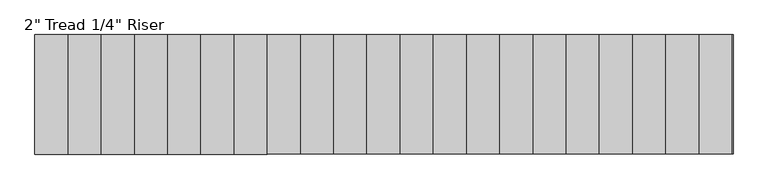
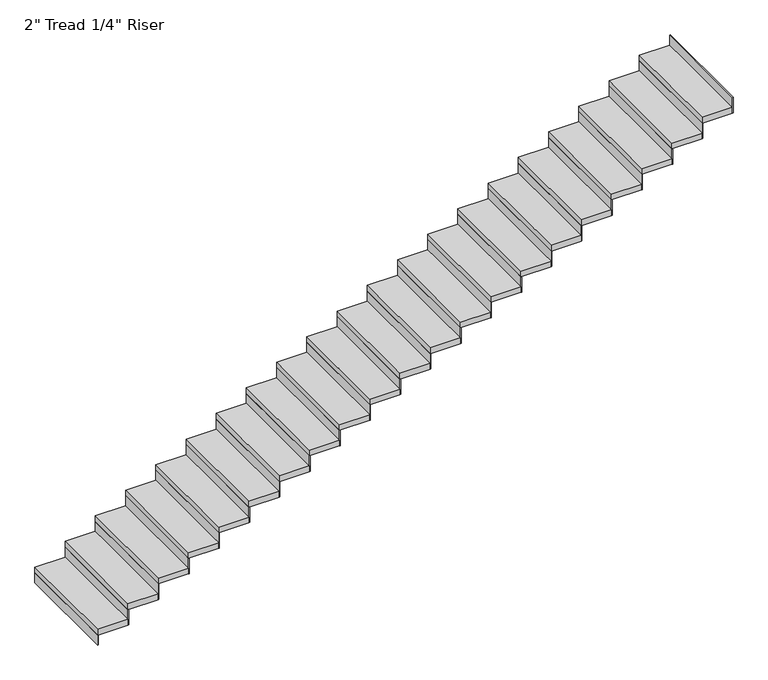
"""IFC4 building model written with IfcOpenShell, lengths in millimetres: stair flight geometry."""

from ifc_helpers import new_model, si_unit, frame, origin, origin_with_axes, place, context, project, spatial, polyline, outline, extrude, source, transform, mapped, element, save


def stair_flight_6cf72abf(model_context):
    return source(origin(), model_context, "Body", "SweptSolid", [
        extrude(outline(polyline([(10185.0667764, -2400.7855758), (10178.7167764, -2400.7855758), (10178.7167764, -1486.3855758), (10185.0667764, -1486.3855758), (10185.0667764, -2400.7855758)])), origin_with_axes(), (0.0, 0.0, 1.0), 87.7454545),
        extrude(outline(polyline([(10432.7167764, -1486.3855758), (10432.7167764, -2400.7855758), (10178.7167764, -2400.7855758), (10178.7167764, -1486.3855758), (10432.7167764, -1486.3855758)])), frame((0.0, 0.0, 87.7454545), z_axis=(0.0, 0.0, 1.0), x_axis=(1.0, 0.0, 0.0)), (0.0, 0.0, 1.0), 50.8),
        extrude(outline(polyline([(10439.0667764, -2400.7855758), (10432.7167764, -2400.7855758), (10432.7167764, -1486.3855758), (10439.0667764, -1486.3855758), (10439.0667764, -2400.7855758)])), frame((0.0, 0.0, 87.7454545), z_axis=(0.0, 0.0, 1.0), x_axis=(1.0, 0.0, 0.0)), (0.0, 0.0, 1.0), 138.5454545),
        extrude(outline(polyline([(10686.7167764, -1486.3855758), (10686.7167764, -2400.7855758), (10432.7167764, -2400.7855758), (10432.7167764, -1486.3855758), (10686.7167764, -1486.3855758)])), frame((0.0, 0.0, 226.2909091), z_axis=(0.0, 0.0, 1.0), x_axis=(1.0, 0.0, 0.0)), (0.0, 0.0, 1.0), 50.8),
        extrude(outline(polyline([(10693.0667764, -2400.7855758), (10686.7167764, -2400.7855758), (10686.7167764, -1486.3855758), (10693.0667764, -1486.3855758), (10693.0667764, -2400.7855758)])), frame((0.0, 0.0, 226.2909091), z_axis=(0.0, 0.0, 1.0), x_axis=(1.0, 0.0, 0.0)), (0.0, 0.0, 1.0), 138.5454545),
        extrude(outline(polyline([(10940.7167764, -1486.3855758), (10940.7167764, -2400.7855758), (10686.7167764, -2400.7855758), (10686.7167764, -1486.3855758), (10940.7167764, -1486.3855758)])), frame((0.0, 0.0, 364.8363636), z_axis=(0.0, 0.0, 1.0), x_axis=(1.0, 0.0, 0.0)), (0.0, 0.0, 1.0), 50.8),
        extrude(outline(polyline([(10947.0667764, -2400.7855758), (10940.7167764, -2400.7855758), (10940.7167764, -1486.3855758), (10947.0667764, -1486.3855758), (10947.0667764, -2400.7855758)])), frame((0.0, 0.0, 364.8363636), z_axis=(0.0, 0.0, 1.0), x_axis=(1.0, 0.0, 0.0)), (0.0, 0.0, 1.0), 138.5454545),
        extrude(outline(polyline([(11194.7167764, -1486.3855758), (11194.7167764, -2400.7855758), (10940.7167764, -2400.7855758), (10940.7167764, -1486.3855758), (11194.7167764, -1486.3855758)])), frame((0.0, 0.0, 503.3818182), z_axis=(0.0, 0.0, 1.0), x_axis=(1.0, 0.0, 0.0)), (0.0, 0.0, 1.0), 50.8),
        extrude(outline(polyline([(11201.0667764, -2400.7855758), (11194.7167764, -2400.7855758), (11194.7167764, -1486.3855758), (11201.0667764, -1486.3855758), (11201.0667764, -2400.7855758)])), frame((0.0, 0.0, 503.3818182), z_axis=(0.0, 0.0, 1.0), x_axis=(1.0, 0.0, 0.0)), (0.0, 0.0, 1.0), 138.5454545),
        extrude(outline(polyline([(11448.7167764, -1486.3855758), (11448.7167764, -2400.7855758), (11194.7167764, -2400.7855758), (11194.7167764, -1486.3855758), (11448.7167764, -1486.3855758)])), frame((0.0, 0.0, 641.9272727), z_axis=(0.0, 0.0, 1.0), x_axis=(1.0, 0.0, 0.0)), (0.0, 0.0, 1.0), 50.8),
        extrude(outline(polyline([(11455.0667764, -2400.7855758), (11448.7167764, -2400.7855758), (11448.7167764, -1486.3855758), (11455.0667764, -1486.3855758), (11455.0667764, -2400.7855758)])), frame((0.0, 0.0, 641.9272727), z_axis=(0.0, 0.0, 1.0), x_axis=(1.0, 0.0, 0.0)), (0.0, 0.0, 1.0), 138.5454545),
        extrude(outline(polyline([(11702.7167764, -1486.3855758), (11702.7167764, -2400.7855758), (11448.7167764, -2400.7855758), (11448.7167764, -1486.3855758), (11702.7167764, -1486.3855758)])), frame((0.0, 0.0, 780.4727273), z_axis=(0.0, 0.0, 1.0), x_axis=(1.0, 0.0, 0.0)), (0.0, 0.0, 1.0), 50.8),
        extrude(outline(polyline([(11709.0667764, -2400.7855758), (11702.7167764, -2400.7855758), (11702.7167764, -1486.3855758), (11709.0667764, -1486.3855758), (11709.0667764, -2400.7855758)])), frame((0.0, 0.0, 780.4727273), z_axis=(0.0, 0.0, 1.0), x_axis=(1.0, 0.0, 0.0)), (0.0, 0.0, 1.0), 138.5454545),
        extrude(outline(polyline([(11956.7167764, -1486.3855758), (11956.7167764, -2400.7855758), (11702.7167764, -2400.7855758), (11702.7167764, -1486.3855758), (11956.7167764, -1486.3855758)])), frame((0.0, 0.0, 919.0181818), z_axis=(0.0, 0.0, 1.0), x_axis=(1.0, 0.0, 0.0)), (0.0, 0.0, 1.0), 50.8),
        extrude(outline(polyline([(11963.0667764, -2400.7855758), (11956.7167764, -2400.7855758), (11956.7167764, -1486.3855758), (11963.0667764, -1486.3855758), (11963.0667764, -2400.7855758)])), frame((0.0, 0.0, 919.0181818), z_axis=(0.0, 0.0, 1.0), x_axis=(1.0, 0.0, 0.0)), (0.0, 0.0, 1.0), 138.5454545),
        extrude(outline(polyline([(12210.7167764, -1486.3855758), (12210.7167764, -2400.7855758), (11956.7167764, -2400.7855758), (11956.7167764, -1486.3855758), (12210.7167764, -1486.3855758)])), frame((0.0, 0.0, 1057.5636364), z_axis=(0.0, 0.0, 1.0), x_axis=(1.0, 0.0, 0.0)), (0.0, 0.0, 1.0), 50.8),
        extrude(outline(polyline([(12217.0667764, -2400.7855758), (12210.7167764, -2400.7855758), (12210.7167764, -1486.3855758), (12217.0667764, -1486.3855758), (12217.0667764, -2400.7855758)])), frame((0.0, 0.0, 1057.5636364), z_axis=(0.0, 0.0, 1.0), x_axis=(1.0, 0.0, 0.0)), (0.0, 0.0, 1.0), 138.5454545),
        extrude(outline(polyline([(12464.7167764, -1486.3855758), (12464.7167764, -2400.7855758), (12210.7167764, -2400.7855758), (12210.7167764, -1486.3855758), (12464.7167764, -1486.3855758)])), frame((0.0, 0.0, 1196.1090909), z_axis=(0.0, 0.0, 1.0), x_axis=(1.0, 0.0, 0.0)), (0.0, 0.0, 1.0), 50.8),
        extrude(outline(polyline([(12471.0667764, -2400.7855758), (12464.7167764, -2400.7855758), (12464.7167764, -1486.3855758), (12471.0667764, -1486.3855758), (12471.0667764, -2400.7855758)])), frame((0.0, 0.0, 1196.1090909), z_axis=(0.0, 0.0, 1.0), x_axis=(1.0, 0.0, 0.0)), (0.0, 0.0, 1.0), 138.5454545),
        extrude(outline(polyline([(12718.7167764, -1486.3855758), (12718.7167764, -2400.7855758), (12464.7167764, -2400.7855758), (12464.7167764, -1486.3855758), (12718.7167764, -1486.3855758)])), frame((0.0, 0.0, 1334.6545455), z_axis=(0.0, 0.0, 1.0), x_axis=(1.0, 0.0, 0.0)), (0.0, 0.0, 1.0), 50.8),
        extrude(outline(polyline([(12725.0667764, -2400.7855758), (12718.7167764, -2400.7855758), (12718.7167764, -1486.3855758), (12725.0667764, -1486.3855758), (12725.0667764, -2400.7855758)])), frame((0.0, 0.0, 1334.6545455), z_axis=(0.0, 0.0, 1.0), x_axis=(1.0, 0.0, 0.0)), (0.0, 0.0, 1.0), 138.5454545),
        extrude(outline(polyline([(12972.7167764, -1486.3855758), (12972.7167764, -2400.7855758), (12718.7167764, -2400.7855758), (12718.7167764, -1486.3855758), (12972.7167764, -1486.3855758)])), frame((0.0, 0.0, 1473.2), z_axis=(0.0, 0.0, 1.0), x_axis=(1.0, 0.0, 0.0)), (0.0, 0.0, 1.0), 50.8),
        extrude(outline(polyline([(12979.0667764, -2400.7855758), (12972.7167764, -2400.7855758), (12972.7167764, -1486.3855758), (12979.0667764, -1486.3855758), (12979.0667764, -2400.7855758)])), frame((0.0, 0.0, 1473.2), z_axis=(0.0, 0.0, 1.0), x_axis=(1.0, 0.0, 0.0)), (0.0, 0.0, 1.0), 138.5454545),
        extrude(outline(polyline([(13226.7167764, -1486.3855758), (13226.7167764, -2400.7855758), (12972.7167764, -2400.7855758), (12972.7167764, -1486.3855758), (13226.7167764, -1486.3855758)])), frame((0.0, 0.0, 1611.7454545), z_axis=(0.0, 0.0, 1.0), x_axis=(1.0, 0.0, 0.0)), (0.0, 0.0, 1.0), 50.8),
        extrude(outline(polyline([(13233.0667764, -2400.7855758), (13226.7167764, -2400.7855758), (13226.7167764, -1486.3855758), (13233.0667764, -1486.3855758), (13233.0667764, -2400.7855758)])), frame((0.0, 0.0, 1611.7454545), z_axis=(0.0, 0.0, 1.0), x_axis=(1.0, 0.0, 0.0)), (0.0, 0.0, 1.0), 138.5454545),
        extrude(outline(polyline([(13480.7167764, -1486.3855758), (13480.7167764, -2400.7855758), (13226.7167764, -2400.7855758), (13226.7167764, -1486.3855758), (13480.7167764, -1486.3855758)])), frame((0.0, 0.0, 1750.2909091), z_axis=(0.0, 0.0, 1.0), x_axis=(1.0, 0.0, 0.0)), (0.0, 0.0, 1.0), 50.8),
        extrude(outline(polyline([(13487.0667764, -2400.7855758), (13480.7167764, -2400.7855758), (13480.7167764, -1486.3855758), (13487.0667764, -1486.3855758), (13487.0667764, -2400.7855758)])), frame((0.0, 0.0, 1750.2909091), z_axis=(0.0, 0.0, 1.0), x_axis=(1.0, 0.0, 0.0)), (0.0, 0.0, 1.0), 138.5454545),
        extrude(outline(polyline([(13734.7167764, -1486.3855758), (13734.7167764, -2400.7855758), (13480.7167764, -2400.7855758), (13480.7167764, -1486.3855758), (13734.7167764, -1486.3855758)])), frame((0.0, 0.0, 1888.8363636), z_axis=(0.0, 0.0, 1.0), x_axis=(1.0, 0.0, 0.0)), (0.0, 0.0, 1.0), 50.8),
        extrude(outline(polyline([(13741.0667764, -2400.7855758), (13734.7167764, -2400.7855758), (13734.7167764, -1486.3855758), (13741.0667764, -1486.3855758), (13741.0667764, -2400.7855758)])), frame((0.0, 0.0, 1888.8363636), z_axis=(0.0, 0.0, 1.0), x_axis=(1.0, 0.0, 0.0)), (0.0, 0.0, 1.0), 138.5454545),
        extrude(outline(polyline([(13988.7167764, -1486.3855758), (13988.7167764, -2400.7855758), (13734.7167764, -2400.7855758), (13734.7167764, -1486.3855758), (13988.7167764, -1486.3855758)])), frame((0.0, 0.0, 2027.3818182), z_axis=(0.0, 0.0, 1.0), x_axis=(1.0, 0.0, 0.0)), (0.0, 0.0, 1.0), 50.8),
        extrude(outline(polyline([(13995.0667764, -2400.7855758), (13988.7167764, -2400.7855758), (13988.7167764, -1486.3855758), (13995.0667764, -1486.3855758), (13995.0667764, -2400.7855758)])), frame((0.0, 0.0, 2027.3818182), z_axis=(0.0, 0.0, 1.0), x_axis=(1.0, 0.0, 0.0)), (0.0, 0.0, 1.0), 138.5454545),
        extrude(outline(polyline([(14242.7167764, -1486.3855758), (14242.7167764, -2400.7855758), (13988.7167764, -2400.7855758), (13988.7167764, -1486.3855758), (14242.7167764, -1486.3855758)])), frame((0.0, 0.0, 2165.9272727), z_axis=(0.0, 0.0, 1.0), x_axis=(1.0, 0.0, 0.0)), (0.0, 0.0, 1.0), 50.8),
        extrude(outline(polyline([(14249.0667764, -2400.7855758), (14242.7167764, -2400.7855758), (14242.7167764, -1486.3855758), (14249.0667764, -1486.3855758), (14249.0667764, -2400.7855758)])), frame((0.0, 0.0, 2165.9272727), z_axis=(0.0, 0.0, 1.0), x_axis=(1.0, 0.0, 0.0)), (0.0, 0.0, 1.0), 138.5454545),
        extrude(outline(polyline([(14496.7167764, -1486.3855758), (14496.7167764, -2400.7855758), (14242.7167764, -2400.7855758), (14242.7167764, -1486.3855758), (14496.7167764, -1486.3855758)])), frame((0.0, 0.0, 2304.4727273), z_axis=(0.0, 0.0, 1.0), x_axis=(1.0, 0.0, 0.0)), (0.0, 0.0, 1.0), 50.8),
        extrude(outline(polyline([(14503.0667764, -2400.7855758), (14496.7167764, -2400.7855758), (14496.7167764, -1486.3855758), (14503.0667764, -1486.3855758), (14503.0667764, -2400.7855758)])), frame((0.0, 0.0, 2304.4727273), z_axis=(0.0, 0.0, 1.0), x_axis=(1.0, 0.0, 0.0)), (0.0, 0.0, 1.0), 138.5454545),
        extrude(outline(polyline([(14750.7167764, -1486.3855758), (14750.7167764, -2400.7855758), (14496.7167764, -2400.7855758), (14496.7167764, -1486.3855758), (14750.7167764, -1486.3855758)])), frame((0.0, 0.0, 2443.0181818), z_axis=(0.0, 0.0, 1.0), x_axis=(1.0, 0.0, 0.0)), (0.0, 0.0, 1.0), 50.8),
        extrude(outline(polyline([(14757.0667764, -2400.7855758), (14750.7167764, -2400.7855758), (14750.7167764, -1486.3855758), (14757.0667764, -1486.3855758), (14757.0667764, -2400.7855758)])), frame((0.0, 0.0, 2443.0181818), z_axis=(0.0, 0.0, 1.0), x_axis=(1.0, 0.0, 0.0)), (0.0, 0.0, 1.0), 138.5454545),
        extrude(outline(polyline([(15004.7167764, -1486.3855758), (15004.7167764, -2400.7855758), (14750.7167764, -2400.7855758), (14750.7167764, -1486.3855758), (15004.7167764, -1486.3855758)])), frame((0.0, 0.0, 2581.5636364), z_axis=(0.0, 0.0, 1.0), x_axis=(1.0, 0.0, 0.0)), (0.0, 0.0, 1.0), 50.8),
        extrude(outline(polyline([(15011.0667764, -2400.7855758), (15004.7167764, -2400.7855758), (15004.7167764, -1486.3855758), (15011.0667764, -1486.3855758), (15011.0667764, -2400.7855758)])), frame((0.0, 0.0, 2581.5636364), z_axis=(0.0, 0.0, 1.0), x_axis=(1.0, 0.0, 0.0)), (0.0, 0.0, 1.0), 138.5454545),
        extrude(outline(polyline([(15258.7167764, -1486.3855758), (15258.7167764, -2400.7855758), (15004.7167764, -2400.7855758), (15004.7167764, -1486.3855758), (15258.7167764, -1486.3855758)])), frame((0.0, 0.0, 2720.1090909), z_axis=(0.0, 0.0, 1.0), x_axis=(1.0, 0.0, 0.0)), (0.0, 0.0, 1.0), 50.8),
        extrude(outline(polyline([(15265.0667764, -2400.7855758), (15258.7167764, -2400.7855758), (15258.7167764, -1486.3855758), (15265.0667764, -1486.3855758), (15265.0667764, -2400.7855758)])), frame((0.0, 0.0, 2720.1090909), z_axis=(0.0, 0.0, 1.0), x_axis=(1.0, 0.0, 0.0)), (0.0, 0.0, 1.0), 138.5454545),
        extrude(outline(polyline([(15519.0667764, -2400.7855758), (15512.7167764, -2400.7855758), (15512.7167764, -1486.3855758), (15519.0667764, -1486.3855758), (15519.0667764, -2400.7855758)])), frame((0.0, 0.0, 2858.6545455), z_axis=(0.0, 0.0, 1.0), x_axis=(1.0, 0.0, 0.0)), (0.0, 0.0, 1.0), 138.5454545),
        extrude(outline(polyline([(15512.7167764, -1486.3855758), (15512.7167764, -2400.7855758), (15258.7167764, -2400.7855758), (15258.7167764, -1486.3855758), (15512.7167764, -1486.3855758)])), frame((0.0, 0.0, 2858.6545455), z_axis=(0.0, 0.0, 1.0), x_axis=(1.0, 0.0, 0.0)), (0.0, 0.0, 1.0), 50.8),
    ])


if __name__ == "__main__":
    model = new_model("IFC4")
    model_context = context("Model", 3, world=origin())
    ifc_project = project(units=[si_unit("LENGTHUNIT", "METRE", prefix="MILLI")], contexts=[model_context])
    site = spatial("IfcSite", under=ifc_project)
    building = spatial("IfcBuilding", under=site)
    placement = place(None, origin())
    stair_flight_shape = stair_flight_6cf72abf(model_context)
    element("IfcStairFlight", 1, ObjectType="2\" Tread 1/4\" Riser", at=placement, inside=building, context=model_context, shape_type="MappedRepresentation", body=[
        mapped(stair_flight_shape, transform((0.0, 0.0, 0.0), x_axis=(1.0, 0.0, 0.0), y_axis=(0.0, 1.0, 0.0), z_axis=(0.0, 0.0, 1.0))),
    ])
    save(model, "model.ifc")
